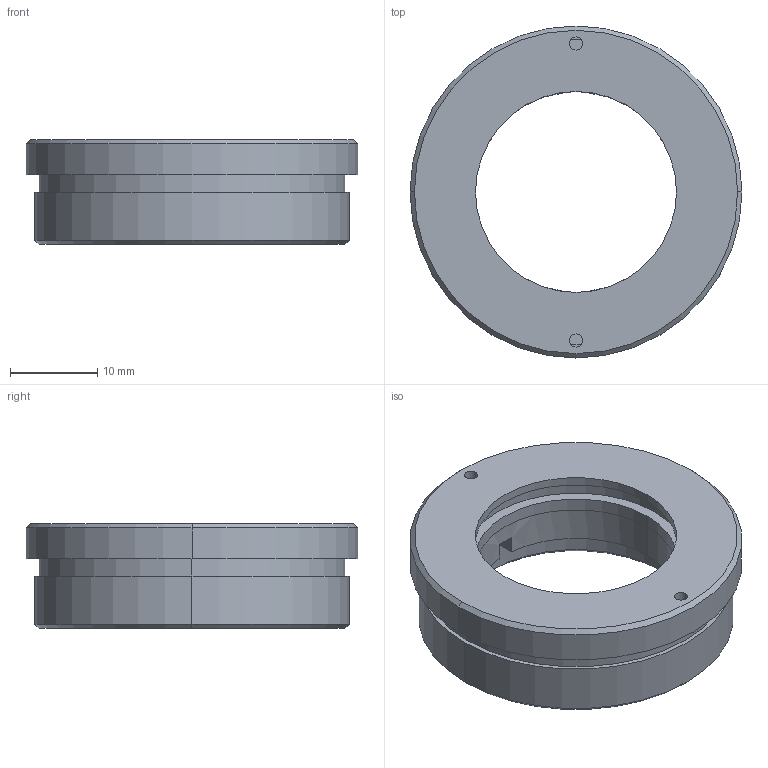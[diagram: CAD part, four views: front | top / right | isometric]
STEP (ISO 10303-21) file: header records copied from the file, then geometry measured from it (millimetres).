
FILE_DESCRIPTION (( 'STEP AP203' ), '1' );
FILE_NAME ('7MA2254变径圈.STEP', '2019-10-24T07:32:51', ( '' ), ( '' ), 'SwSTEP 2.0', 'SolidWorks 2014', '' );
FILE_SCHEMA (( 'CONFIG_CONTROL_DESIGN' ));
Length unit declared in the file: millimetre
Products named in the file (1): 7MA2254变径圈
Bounding box: 38 x 38 x 12 mm (x, y, z)
Surface area: 4605.1 mm2 (no closed solid volume)
Topology: 0 solids, 3 shells, 42 faces, 102 edges, 68 vertices
Faces by surface type: cylinder 20, plane 16, cone 6
Entity records: 1331 total; most frequent: DIRECTION 248, CARTESIAN_POINT 213, ORIENTED_EDGE 182, AXIS2_PLACEMENT_3D 103, EDGE_CURVE 102, VERTEX_POINT 68, CIRCLE 60, EDGE_LOOP 52
